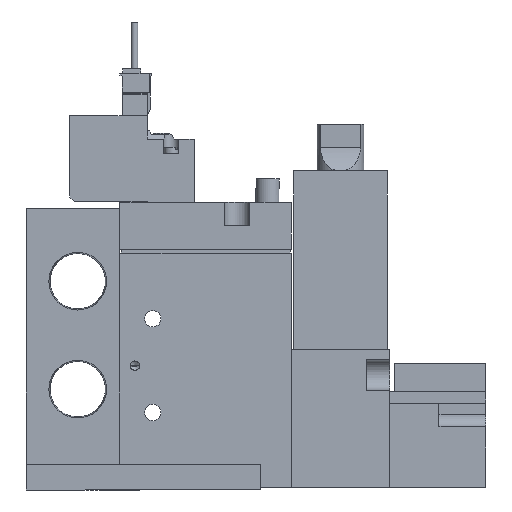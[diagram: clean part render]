
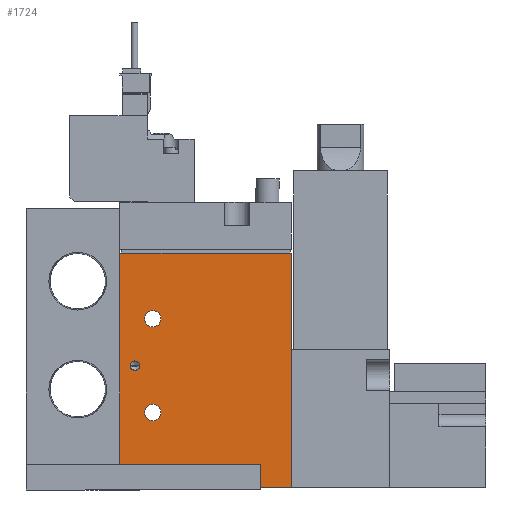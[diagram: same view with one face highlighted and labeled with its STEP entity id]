
A CAD part, left-side view. The second image highlights one B-rep face of the part: STEP entity #1724.
In plain terms, the highlighted planar face has unit normal (-1, 0, 0) as drawn and (1, 0, 0) by its records, which use the part's own axes.
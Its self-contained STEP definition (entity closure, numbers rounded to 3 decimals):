
#1724=ADVANCED_FACE('',(#2534,#2535,#2536,#2537),#2538,.F.);
#2534=FACE_BOUND('',#4216,.T.);
#2535=FACE_BOUND('',#4217,.T.);
#2536=FACE_BOUND('',#4218,.T.);
#2537=FACE_OUTER_BOUND('',#4219,.T.);
#2538=PLANE('',#4220);
#4216=EDGE_LOOP('',(#6213));
#4217=EDGE_LOOP('',(#6214));
#4218=EDGE_LOOP('',(#6215));
#4219=EDGE_LOOP('',(#6216,#6217,#6218,#6219));
#4220=AXIS2_PLACEMENT_3D('',#6220,#6221,#6222);
#6213=ORIENTED_EDGE('',*,*,#11568,.F.);
#6214=ORIENTED_EDGE('',*,*,#11561,.T.);
#6215=ORIENTED_EDGE('',*,*,#11549,.T.);
#6216=ORIENTED_EDGE('',*,*,#11569,.T.);
#6217=ORIENTED_EDGE('',*,*,#11559,.F.);
#6218=ORIENTED_EDGE('',*,*,#11570,.F.);
#6219=ORIENTED_EDGE('',*,*,#11563,.T.);
#6220=CARTESIAN_POINT('',(8.5,-19.444,50.0));
#6221=DIRECTION('',(-1.0,0.0,0.0));
#6222=DIRECTION('',(0.0,0.0,1.0));
#11549=EDGE_CURVE('',#13389,#13389,#13390,.T.);
#11559=EDGE_CURVE('',#13407,#13405,#13409,.T.);
#11561=EDGE_CURVE('',#13412,#13412,#13413,.T.);
#11563=EDGE_CURVE('',#13416,#13414,#13417,.T.);
#11568=EDGE_CURVE('',#13421,#13421,#13422,.T.);
#11569=EDGE_CURVE('',#13414,#13405,#13423,.T.);
#11570=EDGE_CURVE('',#13416,#13407,#13424,.T.);
#13389=VERTEX_POINT('',#16518);
#13390=CIRCLE('',#16519,1.75);
#13405=VERTEX_POINT('',#16538);
#13407=VERTEX_POINT('',#16541);
#13409=LINE('',#16544,#16545);
#13412=VERTEX_POINT('',#16548);
#13413=CIRCLE('',#16549,1.75);
#13414=VERTEX_POINT('',#16550);
#13416=VERTEX_POINT('',#16553);
#13417=LINE('',#16554,#16555);
#13421=VERTEX_POINT('',#16560);
#13422=CIRCLE('',#16561,1.0);
#13423=LINE('',#16562,#16563);
#13424=LINE('',#16564,#16565);
#16518=CARTESIAN_POINT('',(8.5,-10.694,16.0));
#16519=AXIS2_PLACEMENT_3D('',#20812,#20813,#20814);
#16538=CARTESIAN_POINT('',(8.5,17.056,0.0));
#16541=CARTESIAN_POINT('',(8.5,17.056,50.0));
#16544=CARTESIAN_POINT('',(8.5,17.056,50.0));
#16545=VECTOR('',#20830,1.0);
#16548=CARTESIAN_POINT('',(8.5,-10.694,36.0));
#16549=AXIS2_PLACEMENT_3D('',#20834,#20835,#20836);
#16550=CARTESIAN_POINT('',(8.5,-19.444,0.0));
#16553=CARTESIAN_POINT('',(8.5,-19.444,50.0));
#16554=CARTESIAN_POINT('',(8.5,-19.444,50.0));
#16555=VECTOR('',#20838,1.0);
#16560=CARTESIAN_POINT('',(8.5,-17.244,26.0));
#16561=AXIS2_PLACEMENT_3D('',#20843,#20844,#20845);
#16562=CARTESIAN_POINT('',(8.5,-19.444,0.0));
#16563=VECTOR('',#20846,1.0);
#16564=CARTESIAN_POINT('',(8.5,-19.444,50.0));
#16565=VECTOR('',#20847,1.0);
#20812=CARTESIAN_POINT('',(8.5,-12.444,16.0));
#20813=DIRECTION('',(-1.0,0.0,0.0));
#20814=DIRECTION('',(0.0,1.0,0.0));
#20830=DIRECTION('',(0.0,0.0,-1.0));
#20834=CARTESIAN_POINT('',(8.5,-12.444,36.0));
#20835=DIRECTION('',(-1.0,0.0,0.0));
#20836=DIRECTION('',(0.0,1.0,0.0));
#20838=DIRECTION('',(0.0,0.0,-1.0));
#20843=CARTESIAN_POINT('',(8.5,-16.244,26.0));
#20844=DIRECTION('',(1.0,0.,0.0));
#20845=DIRECTION('',(0.,-1.0,0.0));
#20846=DIRECTION('',(0.0,1.0,0.0));
#20847=DIRECTION('',(0.0,1.0,0.0));
